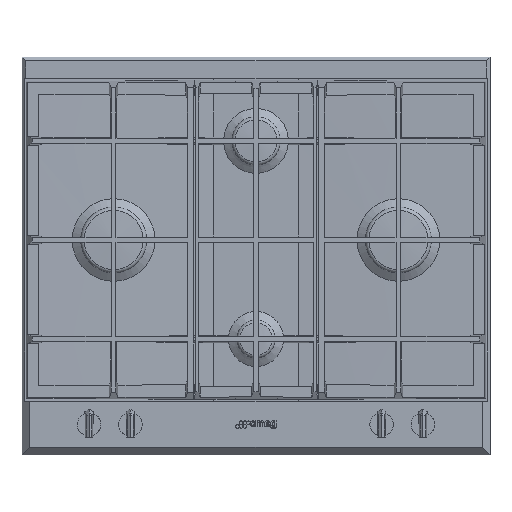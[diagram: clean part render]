
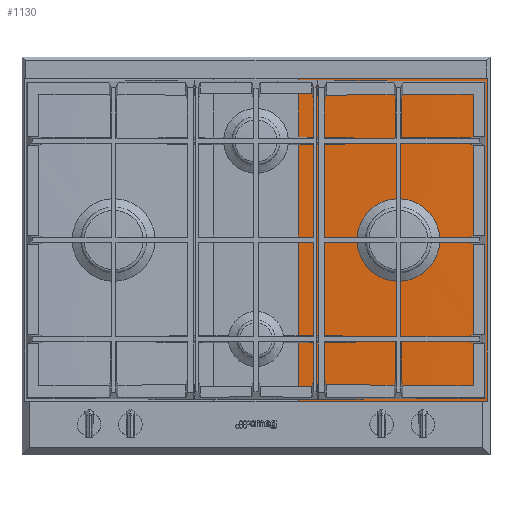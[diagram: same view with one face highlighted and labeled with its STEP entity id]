
A CAD part, top view. The second image highlights one B-rep face of the part: STEP entity #1130.
In plain terms, the highlighted cylindrical face has radius 9313.18 mm (diameter 18626.4 mm), a partial arc.
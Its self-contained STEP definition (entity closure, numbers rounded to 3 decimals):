
#119=B_SPLINE_CURVE_WITH_KNOTS('',3,(#15170,#15171,#15172,#15173,#15174,
#15175,#15176,#15177,#15178,#15179,#15180,#15181,#15182,#15183,#15184,#15185,
#15186,#15187,#15188,#15189,#15190,#15191,#15192,#15193,#15194,#15195,#15196,
#15197,#15198,#15199,#15200,#15201,#15202,#15203,#15204,#15205,#15206,#15207,
#15208,#15209,#15210,#15211,#15212,#15213,#15214,#15215,#15216,#15217,#15218,
#15219,#15220,#15221,#15222,#15223,#15224,#15225),.UNSPECIFIED.,.T.,.F.,
(2,2,2,2,2,2,2,2,2,2,2,2,2,2,2,2,2,2,2,2,2,2,2,2,2,2,2,2,2,2),(-0.062,
0.,0.031,0.063,0.094,0.125,
0.188,0.25,0.281,0.313,
0.344,0.375,0.406,0.438,
0.469,0.5,0.563,0.625,
0.656,0.688,0.719,0.75,
0.781,0.813,0.844,0.875,
0.906,0.938,1.,1.031),.UNSPECIFIED.);
#536=CYLINDRICAL_SURFACE('',#10260,9313.177);
#625=ELLIPSE('',#10229,9641.71,9313.177);
#629=ELLIPSE('',#10237,9641.71,9313.177);
#630=ELLIPSE('',#10256,9641.71,9313.177);
#631=ELLIPSE('',#10257,9641.71,9313.177);
#761=FACE_BOUND('',#2526,.T.);
#762=FACE_BOUND('',#2527,.T.);
#1130=ADVANCED_FACE('',(#761,#762),#536,.T.);
#2526=EDGE_LOOP('',(#5813));
#2527=EDGE_LOOP('',(#5814,#5815,#5816,#5817,#5818,#5819,#5820,#5821,#5822,
#5823,#5824,#5825));
#3276=LINE('',#15112,#4162);
#3282=LINE('',#15127,#4168);
#3296=LINE('',#15163,#4182);
#3300=LINE('',#15229,#4186);
#3301=LINE('',#15232,#4187);
#3302=LINE('',#15233,#4188);
#4162=VECTOR('',#11783,1.);
#4168=VECTOR('',#11795,1.);
#4182=VECTOR('',#11827,1.);
#4186=VECTOR('',#11837,1.);
#4187=VECTOR('',#11840,1.);
#4188=VECTOR('',#11841,1.);
#5813=ORIENTED_EDGE('',*,*,#8880,.T.);
#5814=ORIENTED_EDGE('',*,*,#8850,.F.);
#5815=ORIENTED_EDGE('',*,*,#8881,.T.);
#5816=ORIENTED_EDGE('',*,*,#8882,.T.);
#5817=ORIENTED_EDGE('',*,*,#8829,.T.);
#5818=ORIENTED_EDGE('',*,*,#8858,.F.);
#5819=ORIENTED_EDGE('',*,*,#8883,.T.);
#5820=ORIENTED_EDGE('',*,*,#8884,.T.);
#5821=ORIENTED_EDGE('',*,*,#8842,.T.);
#5822=ORIENTED_EDGE('',*,*,#8885,.F.);
#5823=ORIENTED_EDGE('',*,*,#8886,.F.);
#5824=ORIENTED_EDGE('',*,*,#8876,.F.);
#5825=ORIENTED_EDGE('',*,*,#8887,.T.);
#7744=VERTEX_POINT('',#15067);
#7745=VERTEX_POINT('',#15069);
#7756=VERTEX_POINT('',#15095);
#7757=VERTEX_POINT('',#15097);
#7762=VERTEX_POINT('',#15111);
#7763=VERTEX_POINT('',#15113);
#7768=VERTEX_POINT('',#15126);
#7781=VERTEX_POINT('',#15162);
#7782=VERTEX_POINT('',#15164);
#7783=VERTEX_POINT('',#15226);
#7784=VERTEX_POINT('',#15228);
#7785=VERTEX_POINT('',#15231);
#7786=VERTEX_POINT('',#15234);
#8829=EDGE_CURVE('',#7745,#7744,#625,.T.);
#8842=EDGE_CURVE('',#7757,#7756,#629,.T.);
#8850=EDGE_CURVE('',#7762,#7763,#3276,.T.);
#8858=EDGE_CURVE('',#7768,#7744,#3282,.T.);
#8876=EDGE_CURVE('',#7781,#7782,#3296,.T.);
#8880=EDGE_CURVE('',#7783,#7783,#119,.T.);
#8881=EDGE_CURVE('',#7762,#7784,#630,.T.);
#8882=EDGE_CURVE('',#7784,#7745,#3300,.T.);
#8883=EDGE_CURVE('',#7768,#7785,#631,.T.);
#8884=EDGE_CURVE('',#7785,#7757,#3301,.T.);
#8885=EDGE_CURVE('',#7786,#7756,#3302,.T.);
#8886=EDGE_CURVE('',#7782,#7786,#9763,.T.);
#8887=EDGE_CURVE('',#7781,#7763,#9764,.T.);
#9763=CIRCLE('',#10258,9313.177);
#9764=CIRCLE('',#10259,9313.177);
#10229=AXIS2_PLACEMENT_3D('',#15068,#11744,#11745);
#10237=AXIS2_PLACEMENT_3D('',#15096,#11768,#11769);
#10256=AXIS2_PLACEMENT_3D('',#15227,#11835,#11836);
#10257=AXIS2_PLACEMENT_3D('',#15230,#11838,#11839);
#10258=AXIS2_PLACEMENT_3D('',#15235,#11842,#11843);
#10259=AXIS2_PLACEMENT_3D('',#15236,#11844,#11845);
#10260=AXIS2_PLACEMENT_3D('',#15237,#11846,#11847);
#11744=DIRECTION('',(0.,-0.966,0.259));
#11745=DIRECTION('',(0.,-0.259,-0.966));
#11768=DIRECTION('',(0.,-0.966,0.259));
#11769=DIRECTION('',(0.,-0.259,-0.966));
#11783=DIRECTION('',(0.,1.,0.));
#11795=DIRECTION('',(0.,1.,0.));
#11827=DIRECTION('',(0.,-1.,0.));
#11835=DIRECTION('',(0.,0.966,0.259));
#11836=DIRECTION('',(0.,-0.259,0.966));
#11837=DIRECTION('',(0.,-1.,0.));
#11838=DIRECTION('',(0.,0.966,0.259));
#11839=DIRECTION('',(0.,-0.259,0.966));
#11840=DIRECTION('',(0.,-1.,0.));
#11841=DIRECTION('',(0.,1.,0.));
#11842=DIRECTION('',(0.,-1.,0.));
#11843=DIRECTION('',(-1.,0.,0.));
#11844=DIRECTION('',(0.,-1.,0.));
#11845=DIRECTION('',(-1.,0.,0.));
#11846=DIRECTION('',(0.,-1.,0.));
#11847=DIRECTION('',(0.,0.,-1.));
#15067=CARTESIAN_POINT('',(53.595,385.142,-4.746));
#15068=CARTESIAN_POINT('',(528.846,-2107.065,-9305.789));
#15069=CARTESIAN_POINT('',(293.845,387.599,4.423));
#15095=CARTESIAN_POINT('',(53.595,131.142,-4.746));
#15096=CARTESIAN_POINT('',(528.846,-2361.065,-9305.789));
#15097=CARTESIAN_POINT('',(293.845,133.599,4.423));
#15111=CARTESIAN_POINT('',(53.595,394.501,-4.746));
#15112=CARTESIAN_POINT('',(53.595,469.761,-4.746));
#15113=CARTESIAN_POINT('',(53.595,469.761,-4.746));
#15126=CARTESIAN_POINT('',(53.595,140.501,-4.746));
#15127=CARTESIAN_POINT('',(53.595,469.761,-4.746));
#15162=CARTESIAN_POINT('',(296.363,469.761,4.486));
#15163=CARTESIAN_POINT('',(296.363,469.761,4.486));
#15164=CARTESIAN_POINT('',(296.363,56.321,4.486));
#15170=CARTESIAN_POINT('',(132.095,256.212,-1.066));
#15171=CARTESIAN_POINT('',(132.095,266.126,-1.066));
#15172=CARTESIAN_POINT('',(132.419,269.375,-1.053));
#15173=CARTESIAN_POINT('',(133.69,275.767,-0.999));
#15174=CARTESIAN_POINT('',(134.652,278.943,-0.958));
#15175=CARTESIAN_POINT('',(137.163,284.999,-0.852));
#15176=CARTESIAN_POINT('',(138.699,287.871,-0.787));
#15177=CARTESIAN_POINT('',(142.329,293.307,-0.636));
#15178=CARTESIAN_POINT('',(144.441,295.88,-0.548));
#15179=CARTESIAN_POINT('',(151.362,302.797,-0.264));
#15180=CARTESIAN_POINT('',(156.939,306.52,-0.038));
#15181=CARTESIAN_POINT('',(168.969,311.505,0.435));
#15182=CARTESIAN_POINT('',(175.546,312.817,0.687));
#15183=CARTESIAN_POINT('',(185.325,312.823,1.051));
#15184=CARTESIAN_POINT('',(188.636,312.499,1.173));
#15185=CARTESIAN_POINT('',(195.047,311.225,1.405));
#15186=CARTESIAN_POINT('',(198.163,310.282,1.516));
#15187=CARTESIAN_POINT('',(204.216,307.781,1.729));
#15188=CARTESIAN_POINT('',(207.144,306.216,1.831));
#15189=CARTESIAN_POINT('',(212.564,302.599,2.017));
#15190=CARTESIAN_POINT('',(215.09,300.534,2.102));
#15191=CARTESIAN_POINT('',(219.76,295.87,2.258));
#15192=CARTESIAN_POINT('',(221.835,293.339,2.327));
#15193=CARTESIAN_POINT('',(225.459,287.925,2.446));
#15194=CARTESIAN_POINT('',(227.025,285.003,2.496));
#15195=CARTESIAN_POINT('',(229.538,278.943,2.578));
#15196=CARTESIAN_POINT('',(230.485,275.825,2.608));
#15197=CARTESIAN_POINT('',(231.765,269.418,2.649));
#15198=CARTESIAN_POINT('',(232.094,266.103,2.659));
#15199=CARTESIAN_POINT('',(232.097,256.311,2.659));
#15200=CARTESIAN_POINT('',(230.789,249.731,2.618));
#15201=CARTESIAN_POINT('',(225.809,237.691,2.457));
#15202=CARTESIAN_POINT('',(222.084,232.107,2.336));
#15203=CARTESIAN_POINT('',(215.174,225.186,2.105));
#15204=CARTESIAN_POINT('',(212.604,223.074,2.018));
#15205=CARTESIAN_POINT('',(207.167,219.438,1.832));
#15206=CARTESIAN_POINT('',(204.296,217.901,1.732));
#15207=CARTESIAN_POINT('',(198.251,215.39,1.519));
#15208=CARTESIAN_POINT('',(195.072,214.425,1.406));
#15209=CARTESIAN_POINT('',(188.682,213.15,1.175));
#15210=CARTESIAN_POINT('',(185.438,212.824,1.055));
#15211=CARTESIAN_POINT('',(178.846,212.818,0.81));
#15212=CARTESIAN_POINT('',(175.584,213.14,0.687));
#15213=CARTESIAN_POINT('',(169.197,214.404,0.442));
#15214=CARTESIAN_POINT('',(166.029,215.359,0.319));
#15215=CARTESIAN_POINT('',(159.965,217.865,0.081));
#15216=CARTESIAN_POINT('',(157.092,219.399,-0.034));
#15217=CARTESIAN_POINT('',(151.659,223.018,-0.252));
#15218=CARTESIAN_POINT('',(149.083,225.127,-0.357));
#15219=CARTESIAN_POINT('',(144.463,229.738,-0.547));
#15220=CARTESIAN_POINT('',(142.392,232.253,-0.633));
#15221=CARTESIAN_POINT('',(138.736,237.706,-0.785));
#15222=CARTESIAN_POINT('',(137.174,240.624,-0.851));
#15223=CARTESIAN_POINT('',(133.424,249.648,-1.01));
#15224=CARTESIAN_POINT('',(132.095,256.212,-1.066));
#15225=CARTESIAN_POINT('',(132.095,266.126,-1.066));
#15226=CARTESIAN_POINT('',(132.095,262.821,-1.066));
#15227=CARTESIAN_POINT('',(528.846,2886.708,-9305.789));
#15228=CARTESIAN_POINT('',(293.845,392.044,4.423));
#15229=CARTESIAN_POINT('',(293.845,469.761,4.423));
#15230=CARTESIAN_POINT('',(528.846,2632.708,-9305.789));
#15231=CARTESIAN_POINT('',(293.845,138.044,4.423));
#15232=CARTESIAN_POINT('',(293.845,469.761,4.423));
#15233=CARTESIAN_POINT('',(53.595,469.761,-4.746));
#15234=CARTESIAN_POINT('',(53.595,56.321,-4.746));
#15235=CARTESIAN_POINT('',(528.846,56.321,-9305.789));
#15236=CARTESIAN_POINT('',(528.846,469.761,-9305.789));
#15237=CARTESIAN_POINT('',(528.846,469.761,-9305.789));
